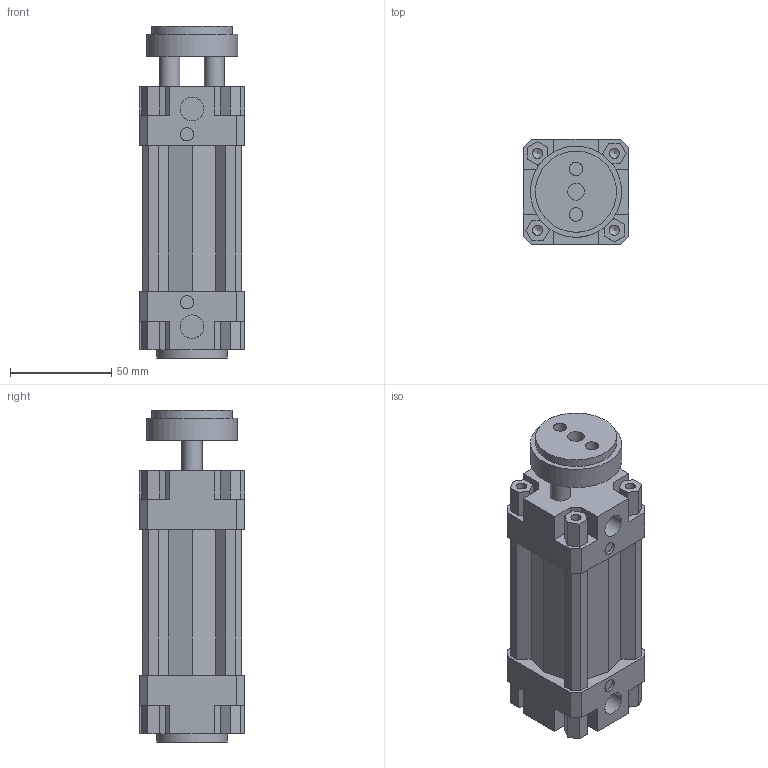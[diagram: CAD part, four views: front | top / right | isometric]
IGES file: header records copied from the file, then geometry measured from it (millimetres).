
Global section: file name: 132#_040_0025_01; native system: Autodesk Inventor 2014; preprocessor: unknown; author: A. Manieri; date: 20161006.154733; units: millimetre
Bounding box: 52 x 52 x 164 mm (x, y, z)
Volume: 276928.2 mm3; surface area: 72172.5 mm2
Topology: 2 solids, 2 shells, 180 faces, 492 edges, 336 vertices
Faces by surface type: bspline 180
